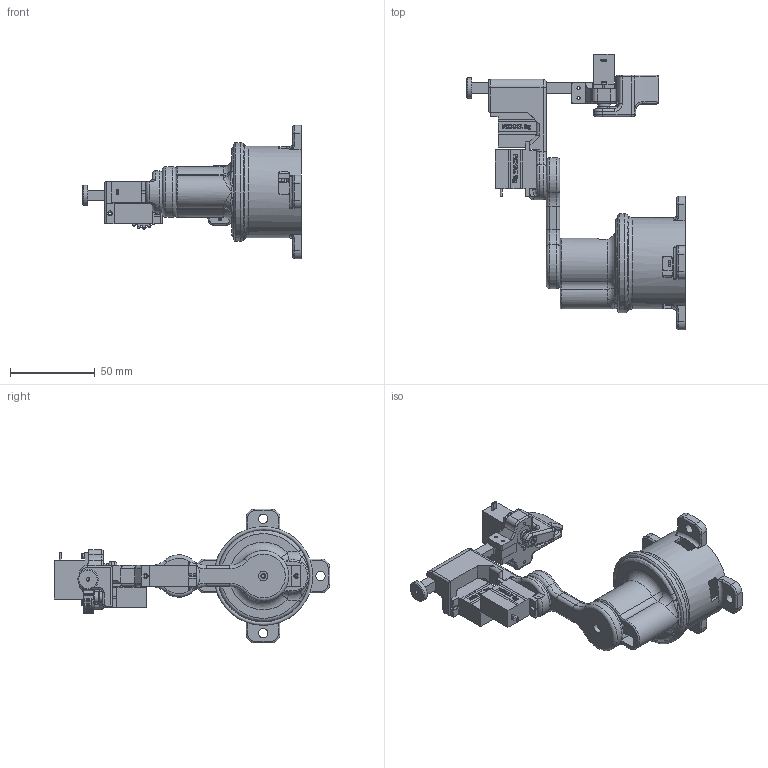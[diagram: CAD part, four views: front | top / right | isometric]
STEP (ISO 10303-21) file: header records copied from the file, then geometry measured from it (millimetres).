
FILE_DESCRIPTION(/* description */ ('','CAx-IF Rec.Pracs.---Representation and Presentation of Product Manufacturing Information (PMI)---4.0---2014-10-13'),/* implementation_level */ '2;1');
FILE_NAME(/* name */ 'Assieme_scara_eco.stp',/* time_stamp */ '2026-04-26T20:02:42+02:00',/* author */ ('R5800u'),/* organization */ (''),/* preprocessor_version */ 'ST-DEVELOPER v20',/* originating_system */ 'Autodesk Inventor 2025',/* authorisation */ '');
FILE_SCHEMA (('AP242_MANAGED_MODEL_BASED_3D_ENGINEERING_MIM_LF { 1 0 10303 442 1 1 4 }'));
Length unit declared in the file: millimetre
Products named in the file (16): Assieme_guida; pignone_17mm; cremagliera; Assieme_blocco_pinza; blocco_pinza_eco_orizzontale_b; dito_pinza_mg90s; ANSI B18.3.1M - M1,6x0,35 x 8, FSHCSM; RCXAZ_9g singolo; Vite a testa cilindrica incassata esalobulare ISO 14580 - M2x8-4.8; frame_guida_mg90s; braccio; base_cilindro; base; MG90_ldb_v2; MG90S ARM doppio; tappo_cremagliera
Assembly tree (23 placements, depth 3):
  Assieme_guida
    MG90_ldb_v2  x4
    MG90S ARM doppio  x4
    pignone_17mm
    cremagliera
    Assieme_blocco_pinza
      blocco_pinza_eco_orizzontale_b
      dito_pinza_mg90s
      ANSI B18.3.1M - M1,6x0,35 x 8, FSHCSM  x2
      MG90_ldb_v2
      RCXAZ_9g singolo
      Vite a testa cilindrica incassata esalobulare ISO 14580 - M2x8-4.8
    frame_guida_mg90s
    braccio
    base_cilindro
    base
    tappo_cremagliera
Bounding box: 129.02 x 162.93 x 79 mm (x, y, z)
Volume: 128973.8 mm3; surface area: 70790.7 mm2
Topology: 22 solids, 24 shells, 3113 faces, 8666 edges, 5690 vertices
Faces by surface type: plane 1849, cylinder 710, bspline 443, torus 89, cone 12, sphere 10
Full cylindrical faces by diameter (mm): 1.167 x15, 1.2 x9, 1.6 x4, 1.8 x12, 2 x3, 2.2 x11, 2.4 x2, 2.7 x2, 2.9 x3, 3 x2, 4.75 x5, 5 x7, 5.5 x11, 6.8 x4, 7.4 x1, 12 x1, 17 x1, 50 x1, 54 x2, 54.4 x1, 58.4 x1
Entity records: 66771 total; most frequent: CARTESIAN_POINT 22900, DIRECTION 8094, ORIENTED_EDGE 7180, EDGE_CURVE 3593, STYLED_ITEM 3190, AXIS2_PLACEMENT_3D 2989, VERTEX_POINT 2324, LINE 2116
